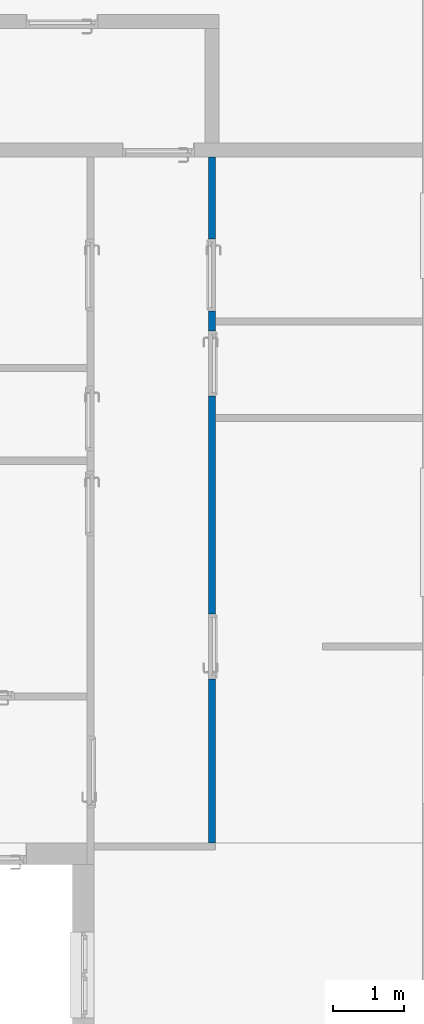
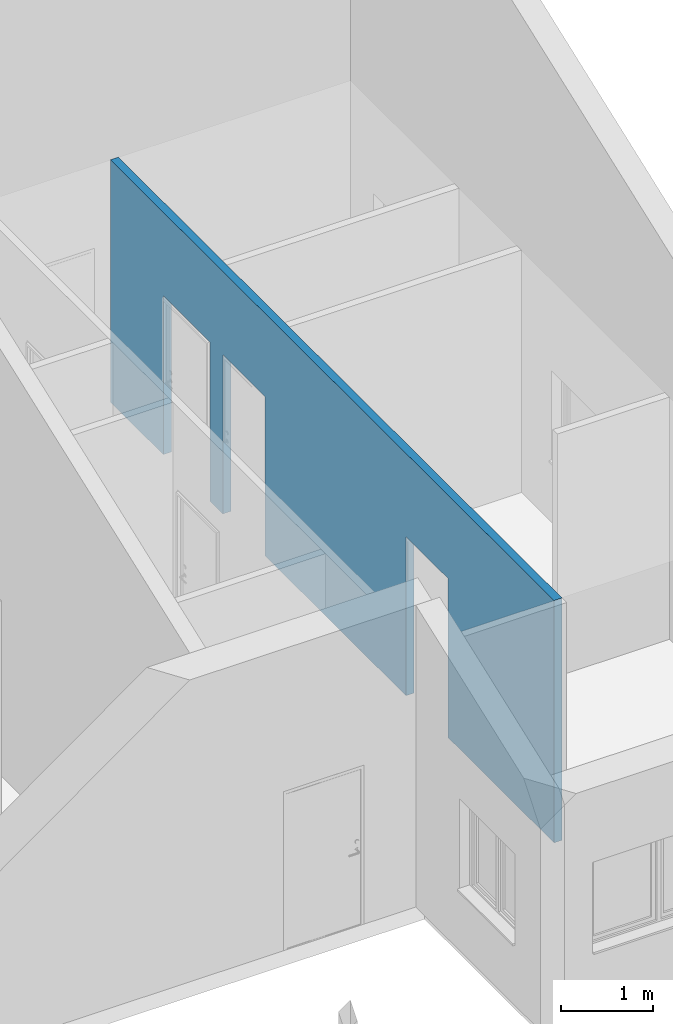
# One storey, part 12 of 23: 1 wall, 3 openings.
"""IFC2X3 building model written with IfcOpenShell, lengths in millimetres."""

from ifc_helpers import new_model, entity, si_unit, converted_unit, direction, frame, frame_2d, origin, place, context, subcontext, project, spatial, rectangle, extrude, material, layer, layer_set, layer_usage, type_object, element, save


model = new_model("IFC2X3")

# Units and contexts
model_context = context("Model", 3, precision=0.01, world=origin(), true_north=direction((6.123031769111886e-17, 1.0)))
body_context = subcontext(model_context, "Body", "Model", "MODEL_VIEW")
ifc_project = project(units=[si_unit("LENGTHUNIT", "METRE", prefix="MILLI"), converted_unit("PLANEANGLEUNIT", "DEGREE", entity("IfcPlaneAngleMeasure", 0.017453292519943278), si_unit("PLANEANGLEUNIT", "RADIAN"), dimensions=[0, 0, 0, 0, 0, 0, 0]), si_unit("AREAUNIT", "SQUARE_METRE")], contexts=[model_context])

# Site, building, storey
site_placement = place(None, frame((7776.576483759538, 118.3519876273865, 0.0)))
site = spatial("IfcSite", under=ifc_project, at=site_placement, Name="Default", CompositionType="ELEMENT")
building_placement = place(site_placement, origin())
building = spatial("IfcBuilding", under=site, at=building_placement, Name="Bygning (endres i Project Information)", CompositionType="ELEMENT")
storey_placement = place(building_placement, frame((0.0, 0.0, 19000.0)))
storey = spatial("IfcBuildingStorey", under=building, at=storey_placement, Name="Plan 01", CompositionType="ELEMENT", Elevation=19000.0)

# Wall, openings
ifc_material = material(Name="Default Wall")
ifc_layer = layer(ifc_material, 100.0)
ifc_layer_set = layer_set([ifc_layer], Name="Basic Wall:Generic - 100mm")
ifc_layer_usage = layer_usage(ifc_layer_set, "AXIS2", "NEGATIVE", 50.0)
wall_type = type_object("IfcWallType", Name="Basic Wall:Generic - 100mm", PredefinedType="STANDARD", material=ifc_layer_set)
wall_placement = place(storey_placement, frame((36624.00137486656, 29297.757305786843, 0.0), z_axis=(0.0, 0.0, 1.0), x_axis=(0.0, -1.0, 0.0)))
wall = element("IfcWallStandardCase", 1, at=wall_placement, inside=storey, type_object=wall_type, material=ifc_layer_usage, Name="Basic Wall:Generic - 100mm", ObjectType="Basic Wall:Generic - 100mm", context=body_context, shape_type="SweptSolid", body=[
    extrude(rectangle(XDim=9600.0, YDim=100.00000000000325, at=frame_2d((4800.0, -8.810729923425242e-13), x_axis=(-1.0, 0.0))), origin(), (0.0, 0.0, 1.0), 3200.0),
])
opening_1_placement = place(wall_placement, frame((1145.0, -50.0, 0.0)))
element("IfcOpeningElement", 2, at=opening_1_placement, cuts=wall, Name="Single Door Simple:986 x 2089 mm - M10 x M21:1", ObjectType="Opening", context=body_context, shape_type="SweptSolid", body=[
    extrude(rectangle(XDim=2100.9999999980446, YDim=1009.9999999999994, at=frame_2d((1050.4999999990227, 504.9999999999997), x_axis=(1.0, 0.0))), frame((0.0, 0.0, 0.0), z_axis=(0.0, 1.0, 0.0), x_axis=(0.0, 0.0, 1.0)), (0.0, 0.0, 1.0), 100.0),
])
opening_2_placement = place(wall_placement, frame((3345.0, 50.0, 0.0)))
element("IfcOpeningElement", 3, at=opening_2_placement, cuts=wall, Name="Single Door Simple:886 x 2089 mm - M9 x M21:1", ObjectType="Opening", context=body_context, shape_type="SweptSolid", body=[
    extrude(rectangle(XDim=2100.9999999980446, YDim=909.9999999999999, at=frame_2d((1050.4999999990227, 455.0000000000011), x_axis=(1.0, 0.0))), frame((0.0, 0.0, 0.0), z_axis=(0.0, -1.0, 0.0), x_axis=(0.0, 0.0, 1.0)), (0.0, 0.0, 1.0), 100.0),
])
opening_3_placement = place(wall_placement, frame((7305.0, 50.0, 0.0)))
element("IfcOpeningElement", 4, at=opening_3_placement, cuts=wall, Name="Single Door Simple:886 x 2089 mm - M9 x M21:1", ObjectType="Opening", context=body_context, shape_type="SweptSolid", body=[
    extrude(rectangle(XDim=2100.9999999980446, YDim=910.0, at=frame_2d((1050.4999999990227, 455.0), x_axis=(1.0, 0.0))), frame((0.0, 0.0, 0.0), z_axis=(0.0, -1.0, 0.0), x_axis=(0.0, 0.0, 1.0)), (0.0, 0.0, 1.0), 100.0),
])

save(model, "model.ifc")
